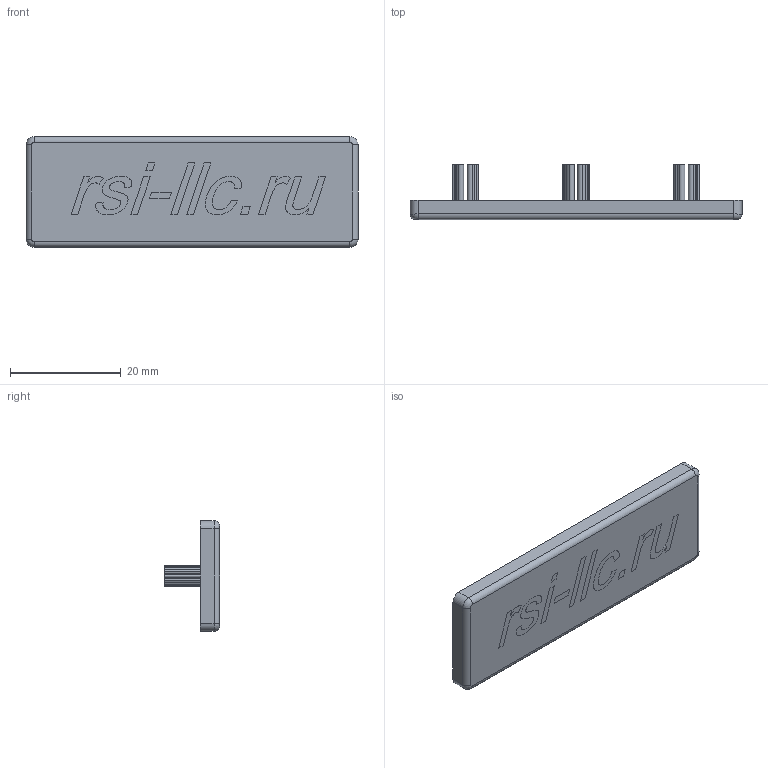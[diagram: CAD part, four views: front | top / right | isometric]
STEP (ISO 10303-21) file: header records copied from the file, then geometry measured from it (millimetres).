
FILE_DESCRIPTION (( 'STEP AP214' ), '1' );
FILE_NAME ('4133.STEP', '2022-10-19T08:57:32', ( '' ), ( '' ), 'SwSTEP 2.0', 'SolidWorks 2020', '' );
FILE_SCHEMA (( 'AUTOMOTIVE_DESIGN' ));
Length unit declared in the file: millimetre
Products named in the file (1): 4133
Bounding box: 60 x 10.01 x 20 mm (x, y, z)
Volume: 3336 mm3; surface area: 4038.2 mm2
Topology: 12 solids, 12 shells, 248 faces, 643 edges, 426 vertices
Faces by surface type: cylinder 122, plane 90, bspline 32, torus 4
Entity records: 10699 total; most frequent: CARTESIAN_POINT 3302, ORIENTED_EDGE 1286, DIRECTION 1261, EDGE_CURVE 643, AXIS2_PLACEMENT_3D 465, VERTEX_POINT 426, LINE 331, VECTOR 331
